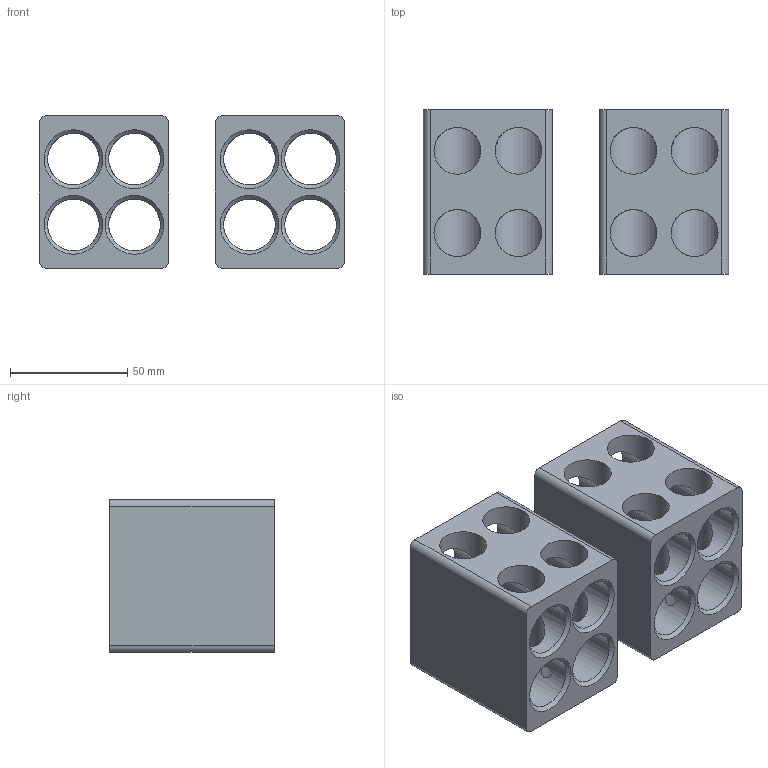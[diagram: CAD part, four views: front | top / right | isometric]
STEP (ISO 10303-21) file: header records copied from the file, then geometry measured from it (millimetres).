
FILE_DESCRIPTION (( 'STEP AP214' ), '1' );
FILE_NAME ('Êîìïëåêò çàæèìîâ ÷åòûðåõãíåçäíûõ 185 êâ ìì ÂÀ50-41 - 2 âåðõíèå.STEP', '2023-02-01T10:31:53', ( '' ), ( '' ), 'SwSTEP 2.0', 'SolidWorks 2018', '' );
FILE_SCHEMA (( 'AUTOMOTIVE_DESIGN' ));
Length unit declared in the file: millimetre
Products named in the file (1): Êîìïëåêò çàæèìîâ ÷åòûðåõãíåçäíûõ 185 êâ ìì ÂÀ50-41 - 2 âåðõíèå
Bounding box: 130 x 70 x 65 mm (x, y, z)
Volume: 238001.6 mm3; surface area: 79882.5 mm2
Topology: 2 solids, 2 shells, 68 faces, 200 edges, 128 vertices
Faces by surface type: cylinder 36, cone 20, plane 12
Full cylindrical faces by diameter (mm): 8.5 x4, 20 x16, 22 x8
Entity records: 5771 total; most frequent: CARTESIAN_POINT 3341, DIRECTION 306, ORIENTED_EDGE 280, EDGE_LOOP 172, EDGE_CURVE 140, AXIS2_PLACEMENT_3D 137, VERTEX_POINT 116, FACE_OUTER_BOUND 96
